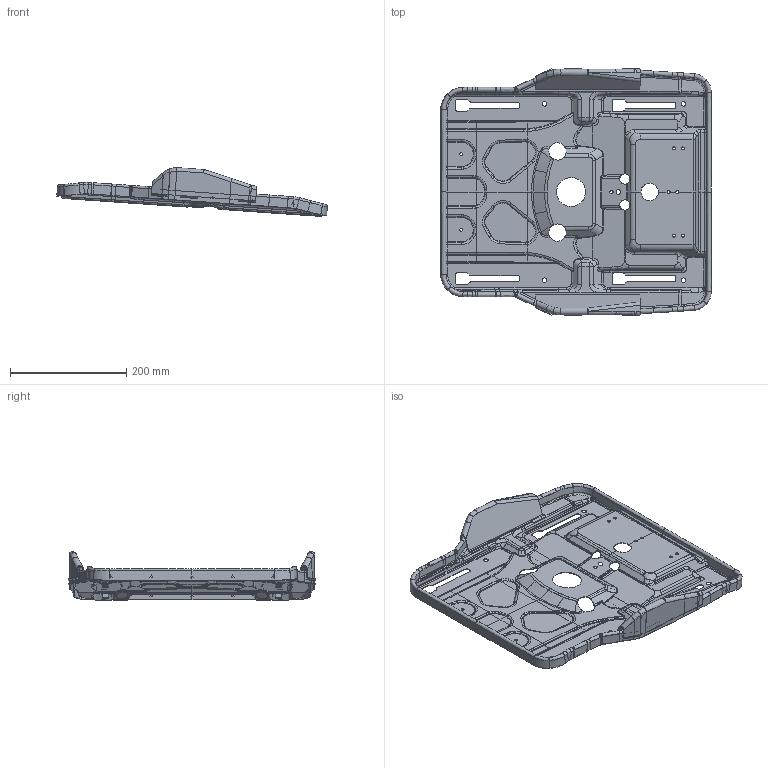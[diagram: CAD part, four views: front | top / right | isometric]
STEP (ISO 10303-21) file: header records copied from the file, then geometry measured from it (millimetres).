
FILE_DESCRIPTION(('CATIA V5 STEP Exchange'),'2;1');
FILE_NAME('C:\Users\nobody\Desktop\SHT0017073_座盆样件_20240529.stp','2024-05-29T07:13:05+00:00',('none'),('none'),'CATIA Version 5 Release 20 GA (IN-10)','CATIA V5 STEP AP203 Edition 2','none');
FILE_SCHEMA(('AP203_CONFIGURATION_CONTROLLED_3D_DESIGN_OF_MECHANICAL_PARTS_AND_ASSEMBLIES_MIM_LF { 1 0 10303 403 2 1 2}'));
Products named in the file (1): zuopen（ceyi）_AllCATPart
Bounding box: 466.06 x 426.06 x 83.92 mm (x, y, z)
Volume: 293353 mm3; surface area: 558542.4 mm2
Topology: 15 solids, 15 shells, 2005 faces, 5030 edges, 2995 vertices
Faces by surface type: bspline 982, cylinder 589, plane 334, torus 48, cone 24, sphere 16, extrusion 12
Entity records: 187132 total; most frequent: CARTESIAN_POINT 149396, ORIENTED_EDGE 9992, EDGE_CURVE 4996, DIRECTION 3730, B_SPLINE_CURVE_WITH_KNOTS 3248, VERTEX_POINT 2995, EDGE_LOOP 2063, ADVANCED_FACE 2005
